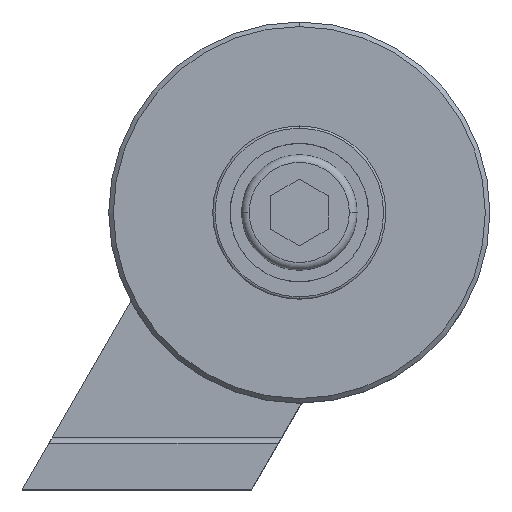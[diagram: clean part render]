
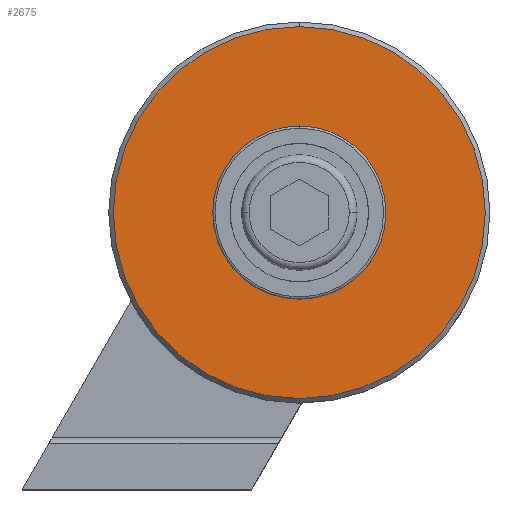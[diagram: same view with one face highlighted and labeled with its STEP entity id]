
A CAD part, top view. The second image highlights one B-rep face of the part: STEP entity #2675.
In plain terms, the highlighted planar face has unit normal (0, 0, 1).
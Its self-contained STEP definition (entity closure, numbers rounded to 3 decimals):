
#2239=CARTESIAN_POINT('',(0.,0.,2.5));
#2240=DIRECTION('',(0.,0.,-1.));
#2241=DIRECTION('',(0.,1.,0.));
#2242=AXIS2_PLACEMENT_3D('',#2239,#2240,#2241);
#2252=CARTESIAN_POINT('',(0.,0.,2.5));
#2253=DIRECTION('',(0.,0.,1.));
#2254=DIRECTION('',(0.,1.,0.));
#2255=AXIS2_PLACEMENT_3D('',#2252,#2253,#2254);
#2381=CARTESIAN_POINT('',(0.,0.,2.5));
#2382=DIRECTION('',(0.,0.,1.));
#2383=DIRECTION('',(0.,1.,0.));
#2384=AXIS2_PLACEMENT_3D('',#2381,#2382,#2383);
#2386=CARTESIAN_POINT('',(0.,0.,2.5));
#2387=DIRECTION('',(0.,0.,1.));
#2388=DIRECTION('',(0.,-1.,0.));
#2389=AXIS2_PLACEMENT_3D('',#2386,#2387,#2388);
#2405=CARTESIAN_POINT('',(0.,7.5,2.5));
#2407=VERTEX_POINT('',#2405);
#2417=CARTESIAN_POINT('',(0.,-7.5,2.5));
#2419=VERTEX_POINT('',#2417);
#2429=CARTESIAN_POINT('',(0.,16.1,2.5));
#2430=CARTESIAN_POINT('',(0.,-16.1,2.5));
#2431=VERTEX_POINT('',#2429);
#2432=VERTEX_POINT('',#2430);
#2661=CARTESIAN_POINT('',(0.,0.,2.5));
#2662=DIRECTION('',(0.,0.,-1.));
#2663=DIRECTION('',(0.,-1.,0.));
#2664=AXIS2_PLACEMENT_3D('',#2661,#2662,#2663);
#2665=PLANE('',#2664);
#2666=ORIENTED_EDGE('',*,*,#2651,.F.);
#2668=ORIENTED_EDGE('',*,*,#2667,.F.);
#2669=EDGE_LOOP('',(#2666,#2668));
#2670=FACE_OUTER_BOUND('',#2669,.F.);
#2671=ORIENTED_EDGE('',*,*,#2452,.F.);
#2672=ORIENTED_EDGE('',*,*,#2470,.T.);
#2673=EDGE_LOOP('',(#2671,#2672));
#2674=FACE_BOUND('',#2673,.F.);
#2675=ADVANCED_FACE('',(#2670,#2674),#2665,.F.);
#2243=CIRCLE('',#2242,7.5);
#2256=CIRCLE('',#2255,7.5);
#2385=CIRCLE('',#2384,16.1);
#2390=CIRCLE('',#2389,16.1);
#2452=EDGE_CURVE('',#2407,#2419,#2243,.T.);
#2470=EDGE_CURVE('',#2407,#2419,#2256,.T.);
#2651=EDGE_CURVE('',#2431,#2432,#2385,.T.);
#2667=EDGE_CURVE('',#2432,#2431,#2390,.T.);
